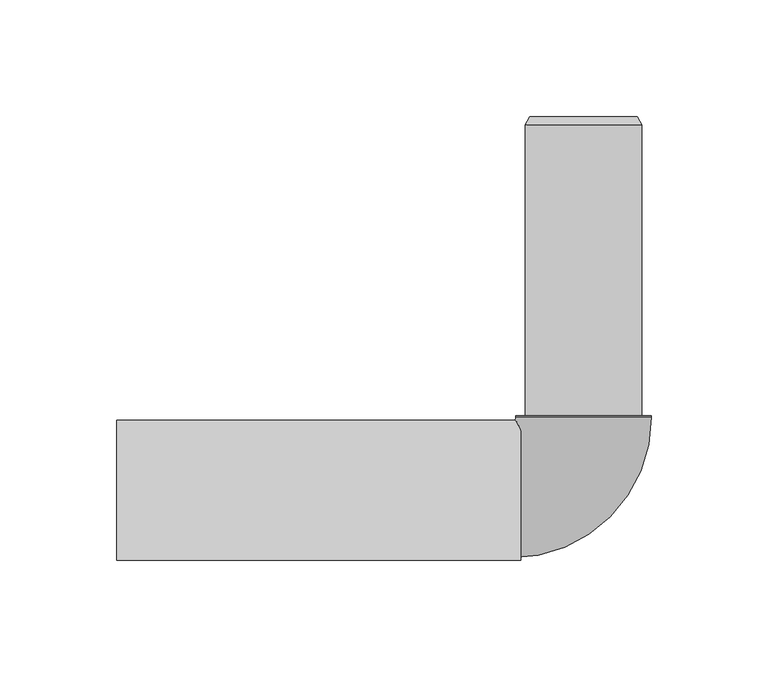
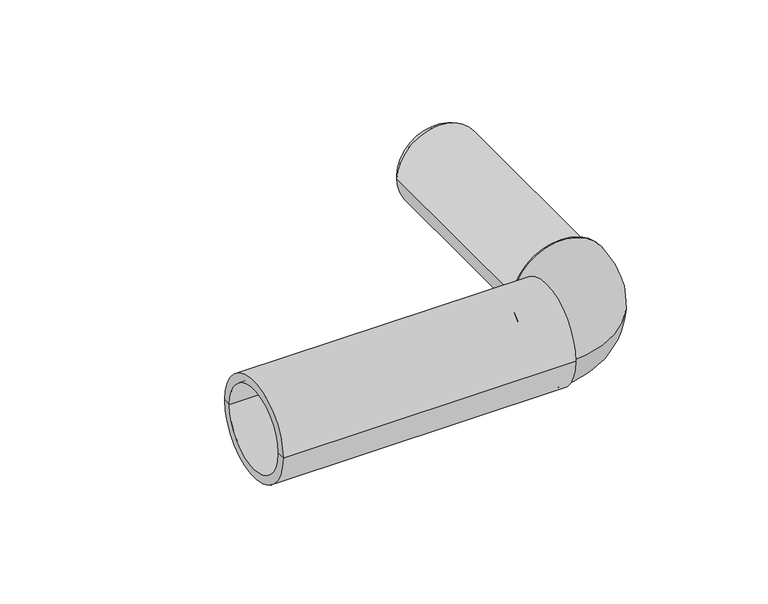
"""IFC4 building model written with IfcOpenShell, lengths in millimetres: pipe fitting geometry, NLRS_52_PIF_UN_Geberit Silent-PP aansluitbocht 90° verlengd_PRO_101521 : DN40-50 / d40-50 - OD."""

from ifc_helpers import new_model, si_unit, point, frame, origin, place, context, project, spatial, polyline, circle_curve, ellipse_curve, trimmed, source, transform, mapped, element, save
from ifc_brep_helpers import plane_surface, cylinder_surface, revolved_surface, advanced_brep


def pipe_fitting_d0fa80fe(model_context):
    return source(origin(), model_context, "Body", "AdvancedBrep", [
        advanced_brep(
        [(25.0, 30.0, 0.0), (-25.0, 30.0, 0.0), (-25.0, 32.0, 0.0), (25.0, 32.0, 0.0)],
        [
            (0, 1, circle_curve(frame((0.0, 30.0, 0.0), z_axis=(0.0, 1.0, 0.0), x_axis=(-0.9999999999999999, 0.0, 0.0)), 25.0)),
            (1, 2, circle_curve(frame((-25.0, 31.0, 0.0), z_axis=(0.0, 0.0, -0.9999999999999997), x_axis=(0.0, 1.0000000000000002, 0.0)), 1.0)),
            (2, 3, circle_curve(frame((0.0, 32.0, 0.0), z_axis=(0.0, -1.0, 0.0), x_axis=(-0.9999999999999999, 0.0, 0.0)), 25.0)),
            (3, 0, circle_curve(frame((25.0, 31.0, 0.0), z_axis=(0.0, 0.0, -0.9999999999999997), x_axis=(0.0, 1.0000000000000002, 0.0)), 1.0)),
            (1, 0, circle_curve(frame((0.0, 30.0, 0.0), z_axis=(0.0, 1.0, 0.0), x_axis=(-0.9999999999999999, 0.0, 0.0)), 25.0)),
            (3, 2, circle_curve(frame((0.0, 32.0, 0.0), z_axis=(0.0, -1.0, 0.0), x_axis=(-0.9999999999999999, 0.0, 0.0)), 25.0)),
            (2, 1),
            (0, 3),
        ],
        [
            revolved_surface(trimmed(ellipse_curve(frame((-25.0, 31.0, 0.0), z_axis=(0.0, 0.0, 0.9999999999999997), x_axis=(0.0, 1.0000000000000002, 0.0)), 1.0, 1.0), [point((-25.0, 32.0, 0.0))], [point((-25.0, 30.0, 0.0))], True, "CARTESIAN"), (0.0, 20.3909381, 0.0), (0.0, -1.0000000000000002, 0.0)),
            revolved_surface(polyline([(-24.999999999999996, 30.000000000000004, 0.0), (-24.999999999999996, 32.0, 0.0)]), (0.0, 20.3909381, 0.0), (0.0, -1.0000000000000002, 0.0)),
        ],
        [
            (0, [[1, 2, 3, 4]]),
            (0, [[5, -4, 6, -2]]),
            (1, [[-3, 7, -1, 8]]),
            (1, [[-6, -8, -5, -7]]),
        ],
    ),
        advanced_brep(
        [(23.0, 160.0, 0.0), (-23.0, 160.0, 0.0), (0.0, 160.0, 0.0), (25.0, 156.5358984, 0.0), (-25.0, 156.5358984, 0.0), (25.0, 32.0, 0.0), (-25.0, 32.0, 0.0), (0.0, 32.0, 0.0)],
        [
            (0, 1, circle_curve(frame((0.0, 160.0, 0.0), z_axis=(0.0, 1.0, 0.0), x_axis=(-0.9999999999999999, 0.0, 0.0)), 23.0)),
            (1, 2),
            (2, 0),
            (1, 0, circle_curve(frame((0.0, 160.0, 0.0), z_axis=(0.0, 1.0, 0.0), x_axis=(-0.9999999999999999, 0.0, 0.0)), 23.0)),
            (3, 4, circle_curve(frame((0.0, 156.5358984, 0.0), z_axis=(0.0, 1.0, 0.0), x_axis=(-0.9999999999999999, 0.0, 0.0)), 25.0)),
            (4, 1),
            (0, 3),
            (4, 3, circle_curve(frame((0.0, 156.5358984, 0.0), z_axis=(0.0, 1.0, 0.0), x_axis=(-0.9999999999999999, 0.0, 0.0)), 25.0)),
            (5, 6, circle_curve(frame((0.0, 32.0, 0.0), z_axis=(0.0, 1.0, 0.0), x_axis=(-0.9999999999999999, 0.0, 0.0)), 25.0)),
            (6, 4),
            (3, 5),
            (6, 5, circle_curve(frame((0.0, 32.0, 0.0), z_axis=(0.0, 1.0, 0.0), x_axis=(-0.9999999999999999, 0.0, 0.0)), 25.0)),
            (7, 6),
            (5, 7),
        ],
        [
            plane_surface(frame((0.0, 160.0, 0.0), z_axis=(0.0, 1.0, 0.0), x_axis=(-1.0, 0.0, 0.0))),
            revolved_surface(polyline([(-23.0, 160.0, 0.0), (-25.0, 156.5358984, 0.0)]), (0.0, 175.0, 0.0), (0.0, -1.0000000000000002, 0.0)),
            cylinder_surface(frame((0.0, 175.0, 0.0), z_axis=(0.0, -1.0000000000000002, 0.0), x_axis=(-0.9999999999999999, 0.0, 0.0)), 25.0),
            plane_surface(frame((0.0, 32.0, 0.0), z_axis=(0.0, -1.0, 0.0), x_axis=(-1.0, 0.0, 0.0))),
        ],
        [
            (0, [[1, 2, 3]]),
            (0, [[4, -3, -2]]),
            (1, [[5, 6, -1, 7]]),
            (1, [[8, -7, -4, -6]]),
            (2, [[9, 10, -5, 11]]),
            (2, [[12, -11, -8, -10]]),
            (3, [[13, -9, 14]]),
            (3, [[-14, -12, -13]]),
        ],
    ),
        advanced_brep(
        [(-32.0, 25.0, 0.0), (-32.0, -25.0, 0.0), (-32.0, 0.0, 0.0), (-200.0, 25.0, 0.0), (-200.0, -25.0, 0.0), (-200.0, 30.0, 0.0), (-200.0, -30.0, 0.0), (-27.0, 30.0, 0.0), (-27.0, -30.0, 0.0), (-27.0, 0.0, 0.0)],
        [
            (0, 1, circle_curve(frame((-32.0, 0.0, 0.0), z_axis=(-1.0, 0.0, 0.0), x_axis=(0.0, -1.0000000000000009, 0.0)), 25.0)),
            (1, 2),
            (2, 0),
            (1, 0, circle_curve(frame((-32.0, 0.0, 0.0), z_axis=(-1.0, 0.0, 0.0), x_axis=(0.0, -1.0000000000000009, 0.0)), 25.0)),
            (3, 4, circle_curve(frame((-200.0, 0.0, 0.0), z_axis=(-1.0, 0.0, 0.0), x_axis=(0.0, -1.0000000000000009, 0.0)), 25.0)),
            (4, 1),
            (0, 3),
            (4, 3, circle_curve(frame((-200.0, 0.0, 0.0), z_axis=(-1.0, 0.0, 0.0), x_axis=(0.0, -1.0000000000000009, 0.0)), 25.0)),
            (5, 6, circle_curve(frame((-200.0, 0.0, 0.0), z_axis=(-1.0, 0.0, 0.0), x_axis=(0.0, -1.0000000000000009, 0.0)), 30.0)),
            (6, 4),
            (3, 5),
            (6, 5, circle_curve(frame((-200.0, 0.0, 0.0), z_axis=(-1.0, 0.0, 0.0), x_axis=(0.0, -1.0000000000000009, 0.0)), 30.0)),
            (7, 8, circle_curve(frame((-27.0, 0.0, 0.0), z_axis=(-1.0, 0.0, 0.0), x_axis=(0.0, -1.0000000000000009, 0.0)), 30.0)),
            (8, 6),
            (5, 7),
            (8, 7, circle_curve(frame((-27.0, 0.0, 0.0), z_axis=(-1.0, 0.0, 0.0), x_axis=(0.0, -1.0000000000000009, 0.0)), 30.0)),
            (9, 8),
            (7, 9),
        ],
        [
            plane_surface(frame((-32.0, 0.0, 0.0), z_axis=(-1.0, 0.0, 0.0), x_axis=(0.0, -1.0, 0.0))),
            revolved_surface(polyline([(-32.00000000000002, -25.00000000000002, 0.0), (-200.00000000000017, -25.00000000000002, 0.0)]), (-7.0, 0.0, 0.0), (1.0000000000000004, 0.0, 0.0)),
            plane_surface(frame((-200.0, 0.0, 0.0), z_axis=(-1.0, 0.0, 0.0), x_axis=(0.0, -1.0, 0.0))),
            cylinder_surface(frame((-7.0, 0.0, 0.0), z_axis=(1.0000000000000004, 0.0, 0.0), x_axis=(0.0, -1.0000000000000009, 0.0)), 30.0),
            plane_surface(frame((-27.0, 0.0, 0.0), z_axis=(1.0, 0.0, 0.0), x_axis=(0.0, -1.0, 0.0))),
        ],
        [
            (0, [[1, 2, 3]]),
            (0, [[4, -3, -2]]),
            (1, [[5, 6, -1, 7]]),
            (1, [[8, -7, -4, -6]]),
            (2, [[9, 10, -5, 11]]),
            (2, [[12, -11, -8, -10]]),
            (3, [[13, 14, -9, 15]]),
            (3, [[16, -15, -12, -14]]),
            (4, [[17, -13, 18]]),
            (4, [[-18, -16, -17]]),
        ],
    ),
        advanced_brep(
        [(-32.0, -29.0, 0.0), (-32.0, 29.0, 0.0), (-31.2, -29.0, 0.0), (-31.2, 29.0, 0.0), (-29.0, 31.2, 0.0), (29.0, 31.2, 0.0), (29.0, 32.0, 0.0), (-29.0, 32.0, 0.0)],
        [
            (0, 1, circle_curve(frame((-32.0, 0.0, 0.0), z_axis=(-1.0, 0.0, 0.0), x_axis=(0.0, 1.0, 0.0)), 29.0)),
            (1, 0, circle_curve(frame((-32.0, 0.0, 0.0), z_axis=(-1.0, 0.0, 0.0), x_axis=(0.0, 1.0, 0.0)), 29.0)),
            (0, 2),
            (2, 3, circle_curve(frame((-31.2, 0.0, 0.0), z_axis=(-1.0, 0.0, 0.0), x_axis=(0.0, 1.0, 0.0)), 29.0)),
            (3, 1),
            (3, 2, circle_curve(frame((-31.2, 0.0, 0.0), z_axis=(-1.0, 0.0, 0.0), x_axis=(0.0, 1.0, 0.0)), 29.0)),
            (4, 3, circle_curve(frame((-31.2, 31.2, 0.0), z_axis=(0.0, 0.0, -1.0), x_axis=(0.0, -1.0, 0.0)), 2.2)),
            (2, 5, circle_curve(frame((-31.2, 31.2, 0.0), z_axis=(0.0, 0.0, 1.0), x_axis=(0.0, -1.0, 0.0)), 60.2)),
            (5, 4, circle_curve(frame((0.0, 31.2, 0.0), z_axis=(0.0, -1.0, 0.0), x_axis=(-1.0, 0.0, 0.0)), 29.0)),
            (4, 5, circle_curve(frame((0.0, 31.2, 0.0), z_axis=(0.0, -1.0, 0.0), x_axis=(-1.0, 0.0, 0.0)), 29.0)),
            (6, 7, circle_curve(frame((0.0, 32.0, 0.0), z_axis=(0.0, 1.0, 0.0), x_axis=(-1.0, 0.0, 0.0)), 29.0)),
            (7, 6, circle_curve(frame((0.0, 32.0, 0.0), z_axis=(0.0, 1.0, 0.0), x_axis=(-1.0, 0.0, 0.0)), 29.0)),
            (5, 6),
            (7, 4),
        ],
        [
            plane_surface(frame((-32.0, 0.0, 0.0), z_axis=(-1.0, 0.0, 0.0), x_axis=(0.0, 0.0, 1.0))),
            cylinder_surface(frame((-32.0, 0.0, 0.0), z_axis=(-1.0, 0.0, 0.0), x_axis=(0.0, 1.0, 0.0)), 29.0),
            revolved_surface(trimmed(ellipse_curve(frame((-31.2, 0.0, 0.0), z_axis=(-1.0, 0.0, 0.0), x_axis=(0.0, 1.0, 0.0)), 29.0, 29.0), [point((-31.2, -29.0, 0.0))], [point((-31.2, 29.0, 0.0))], True, "CARTESIAN"), (-31.2, 31.2, 0.0), (0.0, 0.0, 1.0)),
            revolved_surface(trimmed(ellipse_curve(frame((-31.2, 0.0, 0.0), z_axis=(-1.0, 0.0, 0.0), x_axis=(0.0, 1.0, 0.0)), 29.0, 29.0), [point((-31.2, 29.0, 0.0))], [point((-31.2, -29.0, 0.0))], True, "CARTESIAN"), (-31.2, 31.2, 0.0), (0.0, 0.0, 1.0)),
            plane_surface(frame((0.0, 32.0, 0.0), z_axis=(0.0, 1.0, 0.0), x_axis=(0.0, 0.0, 1.0))),
            cylinder_surface(frame((0.0, 31.2, 0.0), z_axis=(0.0, -1.0, 0.0), x_axis=(-1.0, 0.0, 0.0)), 29.0),
        ],
        [
            (0, [[1, 2]]),
            (1, [[-1, 3, 4, 5]]),
            (1, [[-2, -5, 6, -3]]),
            (2, [[7, -4, 8, 9]]),
            (3, [[-8, -6, -7, 10]]),
            (4, [[11, 12]]),
            (5, [[-9, 13, -12, 14]]),
            (5, [[-10, -14, -11, -13]]),
        ],
    ),
    ])


if __name__ == "__main__":
    model = new_model("IFC4")
    model_context = context("Model", 3, world=origin())
    ifc_project = project(units=[si_unit("LENGTHUNIT", "METRE", prefix="MILLI")], contexts=[model_context])
    site = spatial("IfcSite", under=ifc_project)
    building = spatial("IfcBuilding", under=site)
    placement = place(None, origin())
    pipe_fitting_shape = pipe_fitting_d0fa80fe(model_context)
    element("IfcPipeFitting", 1, ObjectType="NLRS_52_PIF_UN_Geberit Silent-PP aansluitbocht 90° verlengd_PRO_101521 : DN40-50 / d40-50 - OD", at=placement, inside=building, context=model_context, shape_type="MappedRepresentation", body=[
        mapped(pipe_fitting_shape, transform((0.0, 0.0, 0.0), x_axis=(1.0, 0.0, 0.0), y_axis=(0.0, 1.0, 0.0), z_axis=(0.0, 0.0, 1.0))),
    ])
    save(model, "model.ifc")
